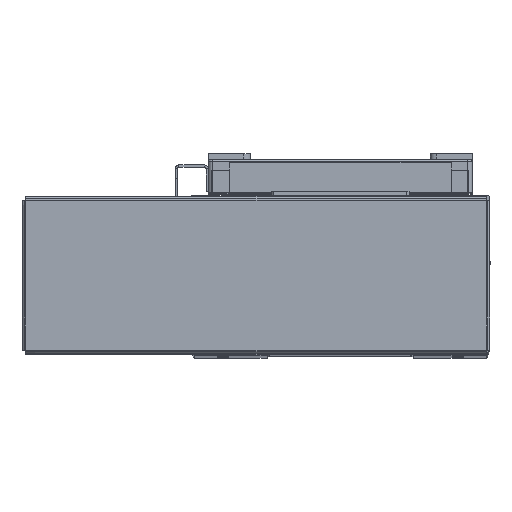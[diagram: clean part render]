
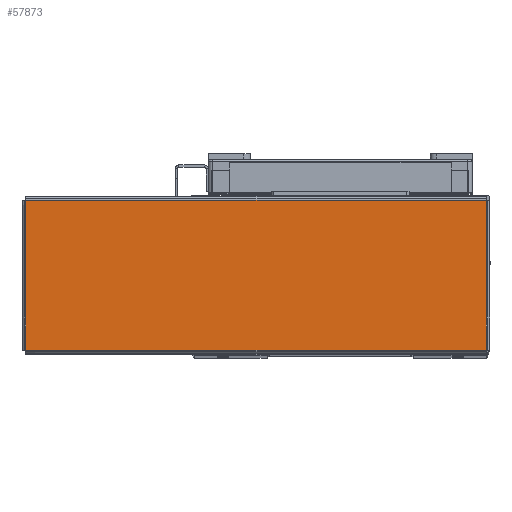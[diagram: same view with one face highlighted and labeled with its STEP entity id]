
A CAD part, top view. The second image highlights one B-rep face of the part: STEP entity #57873.
In plain terms, the highlighted planar face has unit normal (0, 0, 1) as drawn and (0, -1, 0) by its records, which use the part's own axes.
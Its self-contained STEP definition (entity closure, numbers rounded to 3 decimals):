
#1572 = EDGE_LOOP ( 'NONE', ( #62933, #62941, #62840, #62831 ) ) ;
#9480 = EDGE_CURVE ( 'NONE', #11594, #11595, #61339, .T. ) ;
#9496 = EDGE_CURVE ( 'NONE', #11593, #11594, #61363, .T. ) ;
#9497 = EDGE_CURVE ( 'NONE', #11595, #11566, #61388, .T. ) ;
#9536 = EDGE_CURVE ( 'NONE', #11566, #11593, #61424, .T. ) ;
#10752 = CARTESIAN_POINT ( 'NONE',  ( -103.763, -1., 33.793 ) ) ;
#10756 = DIRECTION ( 'NONE',  ( 0., 0., -1. ) ) ;
#10779 = CARTESIAN_POINT ( 'NONE',  ( -103.793, -1., -33.763 ) ) ;
#10780 = DIRECTION ( 'NONE',  ( 1., 0., 0. ) ) ;
#10806 = CARTESIAN_POINT ( 'NONE',  ( 103.793, -1., 33.763 ) ) ;
#10807 = DIRECTION ( 'NONE',  ( -1., 0., 0. ) ) ;
#10933 = DIRECTION ( 'NONE',  ( 0., 0., 1. ) ) ;
#10949 = CARTESIAN_POINT ( 'NONE',  ( 103.763, -1., -33.793 ) ) ;
#11566 = VERTEX_POINT ( 'NONE', #15012 ) ;
#11593 = VERTEX_POINT ( 'NONE', #15031 ) ;
#11594 = VERTEX_POINT ( 'NONE', #15035 ) ;
#11595 = VERTEX_POINT ( 'NONE', #15038 ) ;
#15012 = CARTESIAN_POINT ( 'NONE',  ( 103.763, -1., -33.763 ) ) ;
#15031 = CARTESIAN_POINT ( 'NONE',  ( 103.763, -1., 33.763 ) ) ;
#15035 = CARTESIAN_POINT ( 'NONE',  ( -103.763, -1., 33.763 ) ) ;
#15038 = CARTESIAN_POINT ( 'NONE',  ( -103.763, -1., -33.763 ) ) ;
#35595 = FACE_OUTER_BOUND ( 'NONE', #1572, .T. ) ;
#38133 = AXIS2_PLACEMENT_3D ( 'NONE', #42460, #42478, #42456 ) ;
#42456 = DIRECTION ( 'NONE',  ( 0., 0., 1. ) ) ;
#42460 = CARTESIAN_POINT ( 'NONE',  ( 0., -1., 0. ) ) ;
#42478 = DIRECTION ( 'NONE',  ( 0., 1., 0. ) ) ;
#42479 = PLANE ( 'NONE',  #38133 ) ;
#57873 = ADVANCED_FACE ( 'NONE', ( #35595 ), #42479, .F. ) ;
#61337 = VECTOR ( 'NONE', #10756, 1000. ) ;
#61339 = LINE ( 'NONE', #10752, #61337 ) ;
#61349 = VECTOR ( 'NONE', #10807, 1000. ) ;
#61363 = LINE ( 'NONE', #10806, #61349 ) ;
#61365 = VECTOR ( 'NONE', #10780, 1000. ) ;
#61388 = LINE ( 'NONE', #10779, #61365 ) ;
#61424 = LINE ( 'NONE', #10949, #61434 ) ;
#61434 = VECTOR ( 'NONE', #10933, 1000. ) ;
#62831 = ORIENTED_EDGE ( 'NONE', *, *, #9536, .T. ) ;
#62840 = ORIENTED_EDGE ( 'NONE', *, *, #9497, .T. ) ;
#62933 = ORIENTED_EDGE ( 'NONE', *, *, #9496, .T. ) ;
#62941 = ORIENTED_EDGE ( 'NONE', *, *, #9480, .T. ) ;
